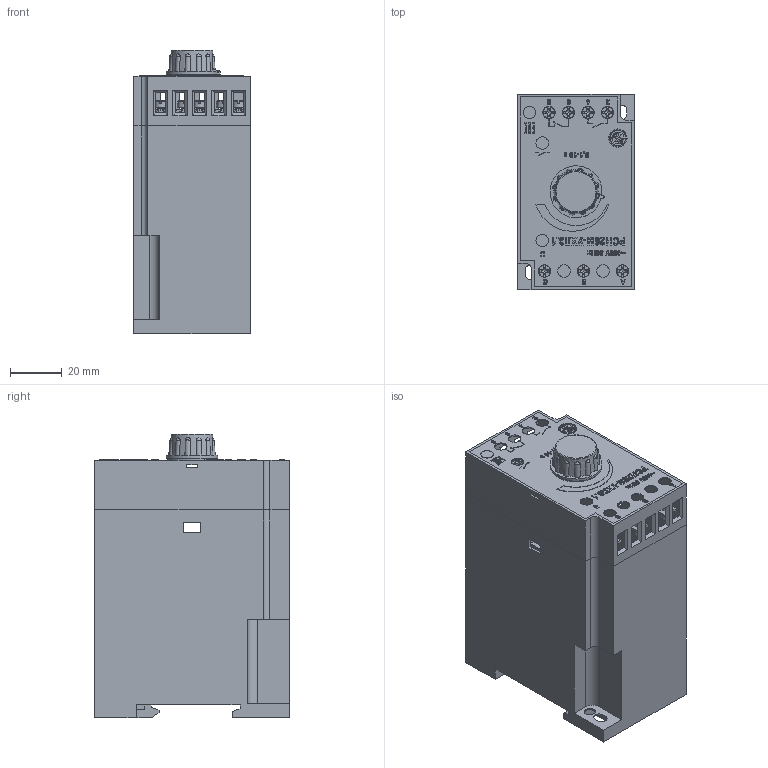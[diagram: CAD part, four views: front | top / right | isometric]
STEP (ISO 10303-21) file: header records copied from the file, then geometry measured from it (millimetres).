
FILE_DESCRIPTION(('STEP AP214'), '1');
FILE_NAME('ﾐﾑﾍ26ﾌ', '', ('UNSPECIFIED'), ('UNSPECIFIED'), 'ASCON STEP Converter 1.6', 'ASCON Math Kernel', '');
FILE_SCHEMA(('AUTOMOTIVE_DESIGN { 1 0 10303 214 3 1 1}'));
Length unit declared in the file: millimetre
Products named in the file (10): 襠窏.301612.; 襠窏.753711.051; 襠窏.753512.139
Assembly tree (15 placements, depth 3):
  (unnamed)
    (unnamed)
    (unnamed)
    襠窏.301612.  x7
      (unnamed)
      (unnamed)
    (unnamed)
    襠窏.753711.051
    (unnamed)
    襠窏.753512.139
Bounding box: 45 x 75 x 109.2 mm (x, y, z)
Volume: 31772.7 mm3; surface area: 63722.7 mm2
Topology: 20 solids, 20 shells, 2620 faces, 7079 edges, 4582 vertices
Faces by surface type: cylinder 1247, plane 1123, cone 115, bspline 99, torus 36
Full cylindrical faces by diameter (mm): 2.3 x7, 3 x7, 4.2 x2, 4.8 x12, 5.6 x1, 8.05 x1, 18.8 x1
Entity records: 89553 total; most frequent: CARTESIAN_POINT 18553, DIRECTION 11883, ORIENTED_EDGE 11316, EDGE_CURVE 5658, AXIS2_PLACEMENT_3D 4385, VERTEX_POINT 3766, LINE 3113, VECTOR 3113
